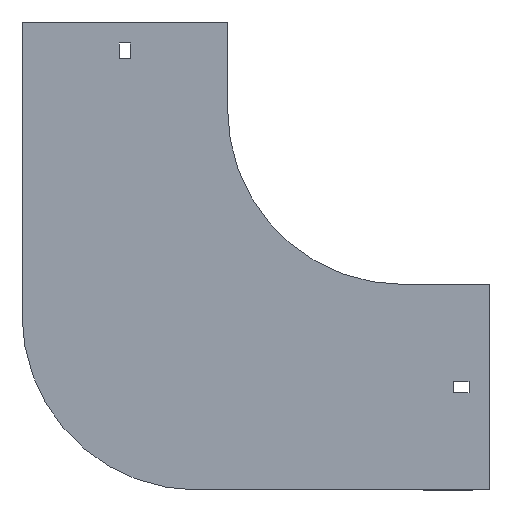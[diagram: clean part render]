
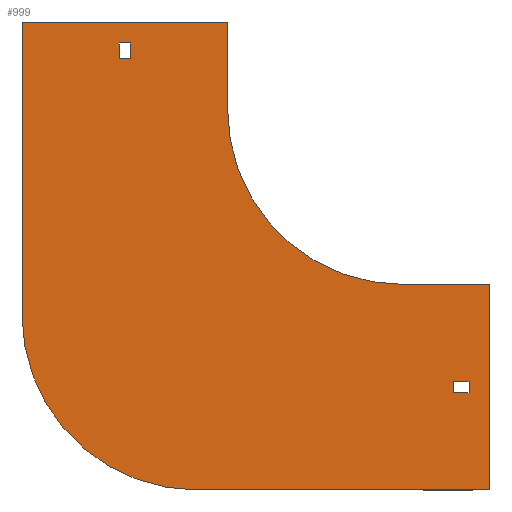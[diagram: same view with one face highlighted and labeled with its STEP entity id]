
A CAD part, front view. The second image highlights one B-rep face of the part: STEP entity #999.
In plain terms, the highlighted planar face has unit normal (0, -1, 0).
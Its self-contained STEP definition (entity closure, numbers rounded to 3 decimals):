
#22 = VERTEX_POINT ( 'NONE', #849 ) ;
#48 = CARTESIAN_POINT ( 'NONE',  ( 0., 0., 0. ) ) ;
#51 = VECTOR ( 'NONE', #835, 1000. ) ;
#97 = EDGE_LOOP ( 'NONE', ( #522, #1207, #612, #837, #387, #1705, #1926, #476 ) ) ;
#99 = DIRECTION ( 'NONE',  ( 1., 0., 0. ) ) ;
#103 = CARTESIAN_POINT ( 'NONE',  ( -162., 0., 29. ) ) ;
#105 = EDGE_CURVE ( 'NONE', #523, #1557, #187, .T. ) ;
#108 = EDGE_CURVE ( 'NONE', #699, #501, #1542, .T. ) ;
#119 = EDGE_CURVE ( 'NONE', #1465, #1161, #1824, .T. ) ;
#128 = CARTESIAN_POINT ( 'NONE',  ( 29., 0., -162. ) ) ;
#133 = LINE ( 'NONE', #144, #607 ) ;
#135 = DIRECTION ( 'NONE',  ( -1., 0., 0. ) ) ;
#144 = CARTESIAN_POINT ( 'NONE',  ( -217.5, 0., 50. ) ) ;
#157 = VECTOR ( 'NONE', #937, 1000. ) ;
#174 = VERTEX_POINT ( 'NONE', #1075 ) ;
#176 = ORIENTED_EDGE ( 'NONE', *, *, #1834, .F. ) ;
#187 = CIRCLE ( 'NONE', #1603, 100. ) ;
#200 = CARTESIAN_POINT ( 'NONE',  ( -100., 0., 0. ) ) ;
#239 = CARTESIAN_POINT ( 'NONE',  ( 0., 0., -100. ) ) ;
#268 = VECTOR ( 'NONE', #814, 1000. ) ;
#283 = CIRCLE ( 'NONE', #657, 100. ) ;
#284 = LINE ( 'NONE', #897, #349 ) ;
#309 = CARTESIAN_POINT ( 'NONE',  ( -117.5, 0., -217.5 ) ) ;
#314 = DIRECTION ( 'NONE',  ( 0., 0., -1. ) ) ;
#322 = CARTESIAN_POINT ( 'NONE',  ( -217.5, 0., -117.5 ) ) ;
#339 = VECTOR ( 'NONE', #1195, 1000. ) ;
#349 = VECTOR ( 'NONE', #135, 1000. ) ;
#354 = ORIENTED_EDGE ( 'NONE', *, *, #419, .T. ) ;
#357 = CARTESIAN_POINT ( 'NONE',  ( 29., 0., -162. ) ) ;
#358 = CARTESIAN_POINT ( 'NONE',  ( 0., 0., 0. ) ) ;
#375 = VERTEX_POINT ( 'NONE', #1162 ) ;
#387 = ORIENTED_EDGE ( 'NONE', *, *, #1844, .F. ) ;
#388 = CARTESIAN_POINT ( 'NONE',  ( 29., 0., -162. ) ) ;
#419 = EDGE_CURVE ( 'NONE', #174, #1165, #1343, .T. ) ;
#442 = DIRECTION ( 'NONE',  ( 0., 0., -1. ) ) ;
#466 = CARTESIAN_POINT ( 'NONE',  ( -162., 0., 29. ) ) ;
#476 = ORIENTED_EDGE ( 'NONE', *, *, #119, .F. ) ;
#477 = EDGE_CURVE ( 'NONE', #649, #920, #1835, .T. ) ;
#501 = VERTEX_POINT ( 'NONE', #581 ) ;
#509 = LINE ( 'NONE', #239, #51 ) ;
#522 = ORIENTED_EDGE ( 'NONE', *, *, #1669, .F. ) ;
#523 = VERTEX_POINT ( 'NONE', #309 ) ;
#529 = DIRECTION ( 'NONE',  ( 0., 0., -1. ) ) ;
#548 = VECTOR ( 'NONE', #529, 1000. ) ;
#566 = CARTESIAN_POINT ( 'NONE',  ( -155.5, 0., 29. ) ) ;
#580 = EDGE_LOOP ( 'NONE', ( #1022, #354, #818, #1929 ) ) ;
#581 = CARTESIAN_POINT ( 'NONE',  ( 29., 0., -155.5 ) ) ;
#589 = CARTESIAN_POINT ( 'NONE',  ( -155.5, 0., 29. ) ) ;
#605 = EDGE_CURVE ( 'NONE', #1588, #523, #284, .T. ) ;
#607 = VECTOR ( 'NONE', #903, 1000. ) ;
#608 = DIRECTION ( 'NONE',  ( 0., 0., 1. ) ) ;
#612 = ORIENTED_EDGE ( 'NONE', *, *, #105, .F. ) ;
#619 = DIRECTION ( 'NONE',  ( -1., 0., 0. ) ) ;
#623 = DIRECTION ( 'NONE',  ( 0., -1., 0. ) ) ;
#642 = FACE_OUTER_BOUND ( 'NONE', #97, .T. ) ;
#649 = VERTEX_POINT ( 'NONE', #589 ) ;
#657 = AXIS2_PLACEMENT_3D ( 'NONE', #48, #623, #314 ) ;
#688 = LINE ( 'NONE', #1595, #1818 ) ;
#699 = VERTEX_POINT ( 'NONE', #1823 ) ;
#700 = DIRECTION ( 'NONE',  ( 1., 0., 0. ) ) ;
#751 = VECTOR ( 'NONE', #700, 1000. ) ;
#814 = DIRECTION ( 'NONE',  ( 0., 0., -1. ) ) ;
#818 = ORIENTED_EDGE ( 'NONE', *, *, #1209, .T. ) ;
#835 = DIRECTION ( 'NONE',  ( 1., 0., 0. ) ) ;
#837 = ORIENTED_EDGE ( 'NONE', *, *, #605, .F. ) ;
#849 = CARTESIAN_POINT ( 'NONE',  ( 38., 0., -162. ) ) ;
#897 = CARTESIAN_POINT ( 'NONE',  ( 50., 0., -217.5 ) ) ;
#903 = DIRECTION ( 'NONE',  ( 1., 0., 0. ) ) ;
#920 = VERTEX_POINT ( 'NONE', #103 ) ;
#925 = DIRECTION ( 'NONE',  ( 0., 1., 0. ) ) ;
#937 = DIRECTION ( 'NONE',  ( -1., 0., 0. ) ) ;
#978 = DIRECTION ( 'NONE',  ( 0., 0., 1. ) ) ;
#999 = ADVANCED_FACE ( 'NONE', ( #1403, #642, #1255 ), #1441, .T. ) ;
#1022 = ORIENTED_EDGE ( 'NONE', *, *, #1378, .T. ) ;
#1075 = CARTESIAN_POINT ( 'NONE',  ( -162., 0., 38. ) ) ;
#1084 = EDGE_CURVE ( 'NONE', #1161, #375, #283, .T. ) ;
#1088 = CARTESIAN_POINT ( 'NONE',  ( 38., 0., -162. ) ) ;
#1098 = CARTESIAN_POINT ( 'NONE',  ( -100., 0., 50. ) ) ;
#1117 = CARTESIAN_POINT ( 'NONE',  ( 50., 0., -217.5 ) ) ;
#1121 = LINE ( 'NONE', #1088, #1306 ) ;
#1161 = VERTEX_POINT ( 'NONE', #200 ) ;
#1162 = CARTESIAN_POINT ( 'NONE',  ( 0., 0., -100. ) ) ;
#1165 = VERTEX_POINT ( 'NONE', #1407 ) ;
#1175 = EDGE_CURVE ( 'NONE', #22, #699, #1121, .T. ) ;
#1195 = DIRECTION ( 'NONE',  ( 0., 0., -1. ) ) ;
#1196 = CARTESIAN_POINT ( 'NONE',  ( -162., 0., 29. ) ) ;
#1207 = ORIENTED_EDGE ( 'NONE', *, *, #1483, .F. ) ;
#1209 = EDGE_CURVE ( 'NONE', #1165, #649, #1937, .T. ) ;
#1233 = AXIS2_PLACEMENT_3D ( 'NONE', #358, #1565, #1297 ) ;
#1255 = FACE_BOUND ( 'NONE', #1514, .T. ) ;
#1274 = LINE ( 'NONE', #357, #548 ) ;
#1297 = DIRECTION ( 'NONE',  ( 0., 0., -1. ) ) ;
#1304 = ORIENTED_EDGE ( 'NONE', *, *, #108, .F. ) ;
#1306 = VECTOR ( 'NONE', #1679, 1000. ) ;
#1343 = LINE ( 'NONE', #1637, #751 ) ;
#1378 = EDGE_CURVE ( 'NONE', #920, #174, #1399, .T. ) ;
#1399 = LINE ( 'NONE', #466, #1933 ) ;
#1403 = FACE_BOUND ( 'NONE', #580, .T. ) ;
#1407 = CARTESIAN_POINT ( 'NONE',  ( -155.5, 0., 38. ) ) ;
#1441 = PLANE ( 'NONE',  #1233 ) ;
#1461 = EDGE_CURVE ( 'NONE', #375, #1516, #509, .T. ) ;
#1465 = VERTEX_POINT ( 'NONE', #1871 ) ;
#1483 = EDGE_CURVE ( 'NONE', #1557, #1548, #688, .T. ) ;
#1511 = CARTESIAN_POINT ( 'NONE',  ( -117.5, 0., -117.5 ) ) ;
#1514 = EDGE_LOOP ( 'NONE', ( #1851, #176, #1556, #1304 ) ) ;
#1516 = VERTEX_POINT ( 'NONE', #1887 ) ;
#1518 = DIRECTION ( 'NONE',  ( 0., 0., 1. ) ) ;
#1533 = CARTESIAN_POINT ( 'NONE',  ( 29., 0., -155.5 ) ) ;
#1542 = LINE ( 'NONE', #1533, #1787 ) ;
#1548 = VERTEX_POINT ( 'NONE', #1826 ) ;
#1552 = VECTOR ( 'NONE', #442, 1000. ) ;
#1556 = ORIENTED_EDGE ( 'NONE', *, *, #1843, .F. ) ;
#1557 = VERTEX_POINT ( 'NONE', #322 ) ;
#1565 = DIRECTION ( 'NONE',  ( 0., -1., 0. ) ) ;
#1587 = CARTESIAN_POINT ( 'NONE',  ( 50., 0., -100. ) ) ;
#1588 = VERTEX_POINT ( 'NONE', #1117 ) ;
#1595 = CARTESIAN_POINT ( 'NONE',  ( -217.5, 0., -117.5 ) ) ;
#1603 = AXIS2_PLACEMENT_3D ( 'NONE', #1511, #925, #608 ) ;
#1628 = VECTOR ( 'NONE', #99, 1000. ) ;
#1637 = CARTESIAN_POINT ( 'NONE',  ( -162., 0., 38. ) ) ;
#1669 = EDGE_CURVE ( 'NONE', #1548, #1465, #133, .T. ) ;
#1679 = DIRECTION ( 'NONE',  ( 0., 0., 1. ) ) ;
#1705 = ORIENTED_EDGE ( 'NONE', *, *, #1461, .F. ) ;
#1744 = LINE ( 'NONE', #388, #1628 ) ;
#1787 = VECTOR ( 'NONE', #619, 1000. ) ;
#1818 = VECTOR ( 'NONE', #978, 1000. ) ;
#1823 = CARTESIAN_POINT ( 'NONE',  ( 38., 0., -155.5 ) ) ;
#1824 = LINE ( 'NONE', #1098, #339 ) ;
#1826 = CARTESIAN_POINT ( 'NONE',  ( -217.5, 0., 50. ) ) ;
#1834 = EDGE_CURVE ( 'NONE', #1940, #22, #1744, .T. ) ;
#1835 = LINE ( 'NONE', #1196, #157 ) ;
#1843 = EDGE_CURVE ( 'NONE', #501, #1940, #1274, .T. ) ;
#1844 = EDGE_CURVE ( 'NONE', #1516, #1588, #1901, .T. ) ;
#1851 = ORIENTED_EDGE ( 'NONE', *, *, #1175, .F. ) ;
#1871 = CARTESIAN_POINT ( 'NONE',  ( -100., 0., 50. ) ) ;
#1887 = CARTESIAN_POINT ( 'NONE',  ( 50., 0., -100. ) ) ;
#1901 = LINE ( 'NONE', #1587, #268 ) ;
#1926 = ORIENTED_EDGE ( 'NONE', *, *, #1084, .F. ) ;
#1929 = ORIENTED_EDGE ( 'NONE', *, *, #477, .T. ) ;
#1933 = VECTOR ( 'NONE', #1518, 1000. ) ;
#1937 = LINE ( 'NONE', #566, #1552 ) ;
#1940 = VERTEX_POINT ( 'NONE', #128 ) ;
